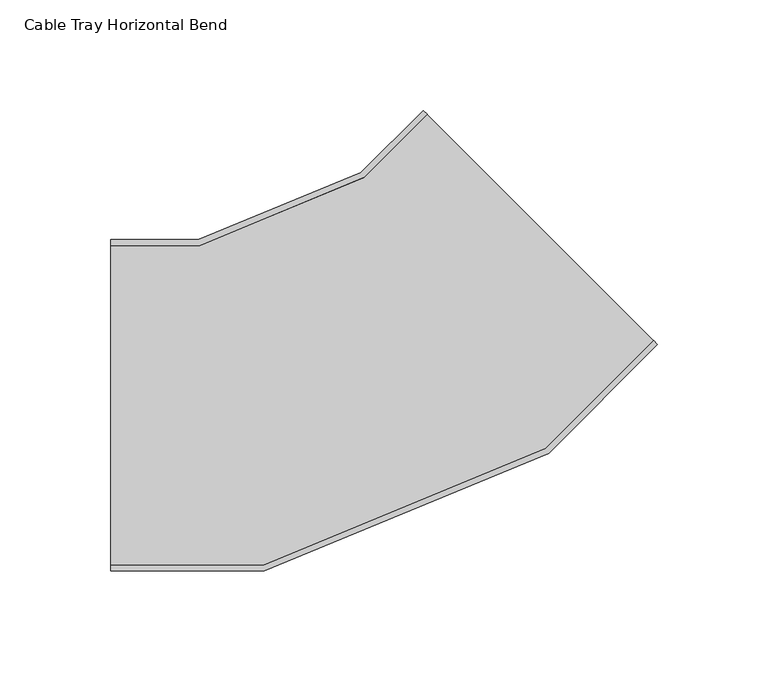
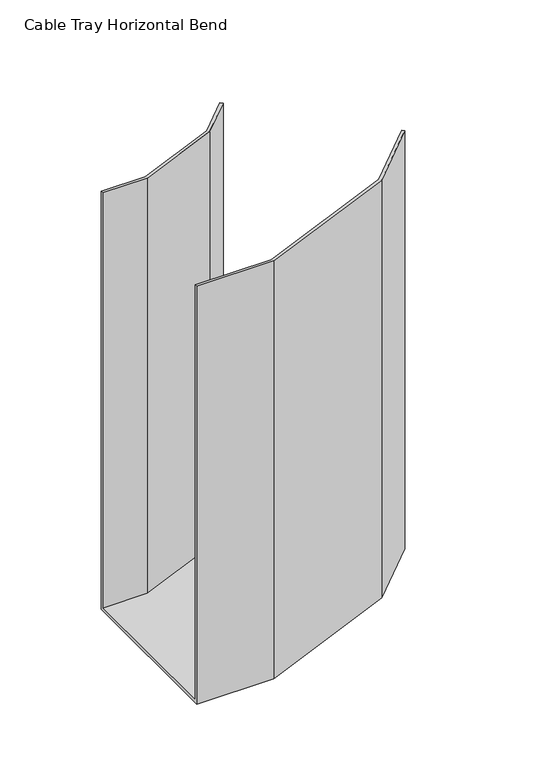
"""IFC4 building model written with IfcOpenShell, lengths in millimetres: cable carrier fitting geometry, Cable Tray Horizontal Bend : ELEC_ELV_TKG_N2402."""

from ifc_helpers import new_model, si_unit, origin, place, context, project, spatial, faceted_brep, source, transform, mapped, element, save


def cable_tray_horizontal_bend_91100278(model_context):
    return source(origin(), model_context, "Body", "Brep", [
        faceted_brep([(-113.9093868, -75.0, -200.0), (-113.9093868, -75.0, 200.0), (-113.9093868, -72.46, 200.0), (-113.9093868, -72.46, -197.46), (-113.9093868, 72.46, -197.46), (-113.9093868, 72.46, 200.0), (-113.9093868, 75.0, 200.0), (-113.9093868, 75.0, -200.0), (133.5789962, 27.5136361, -200.0), (27.5125463, 133.5792206, -200.0), (27.5125463, 133.5792206, 200.0), (29.3086049, 131.7831767, 200.0), (29.3086049, 131.7831767, -197.46), (131.7829376, 29.30968, -197.46), (131.7829376, 29.30968, 200.0), (133.5789962, 27.5136361, 200.0), (-44.2896871, -75.0, -200.0), (-44.2896871, -75.0, 200.0), (84.3506353, -21.7151264, 200.0), (82.911834, -19.5618224, 200.0), (-44.7949272, -72.46, 200.0), (-44.7949272, -72.46, -197.46), (82.911834, -19.5618224, -197.46), (0.8208557, 103.2951951, -197.46), (-73.6214611, 72.46, -197.46), (-73.6214611, 72.46, 200.0), (0.8208557, 103.2951951, 200.0), (-0.6179456, 105.4484992, 200.0), (-74.1267013, 75.0, 200.0), (-74.1267013, 75.0, -200.0), (-0.6179456, 105.4484992, -200.0), (84.3506353, -21.7151264, -200.0)], [[[0, 1, 2, 3, 4, 5, 6, 7]], [[8, 9, 10, 11, 12, 13, 14, 15]], [[1, 0, 16, 17]], [[2, 1, 17, 18, 15, 14, 19, 20]], [[3, 2, 20, 21]], [[4, 3, 21, 22, 13, 12, 23, 24]], [[5, 4, 24, 25]], [[6, 5, 25, 26, 11, 10, 27, 28]], [[7, 6, 28, 29]], [[0, 7, 29, 30, 9, 8, 31, 16]], [[17, 16, 31, 18]], [[21, 20, 19, 22]], [[25, 24, 23, 26]], [[29, 28, 27, 30]], [[18, 31, 8, 15]], [[22, 19, 14, 13]], [[26, 23, 12, 11]], [[30, 27, 10, 9]]]),
    ])


if __name__ == "__main__":
    model = new_model("IFC4")
    model_context = context("Model", 3, world=origin())
    ifc_project = project(units=[si_unit("LENGTHUNIT", "METRE", prefix="MILLI")], contexts=[model_context])
    site = spatial("IfcSite", under=ifc_project)
    building = spatial("IfcBuilding", under=site)
    placement = place(None, origin())
    cable_tray_horizontal_bend_shape = cable_tray_horizontal_bend_91100278(model_context)
    element("IfcCableCarrierFitting", 1, ObjectType="Cable Tray Horizontal Bend : ELEC_ELV_TKG_N2402", at=placement, inside=building, context=model_context, shape_type="MappedRepresentation", body=[
        mapped(cable_tray_horizontal_bend_shape, transform((0.0, 0.0, 0.0), x_axis=(1.0, 0.0, 0.0), y_axis=(0.0, 1.0, 0.0), z_axis=(0.0, 0.0, 1.0))),
    ])
    save(model, "model.ifc")
